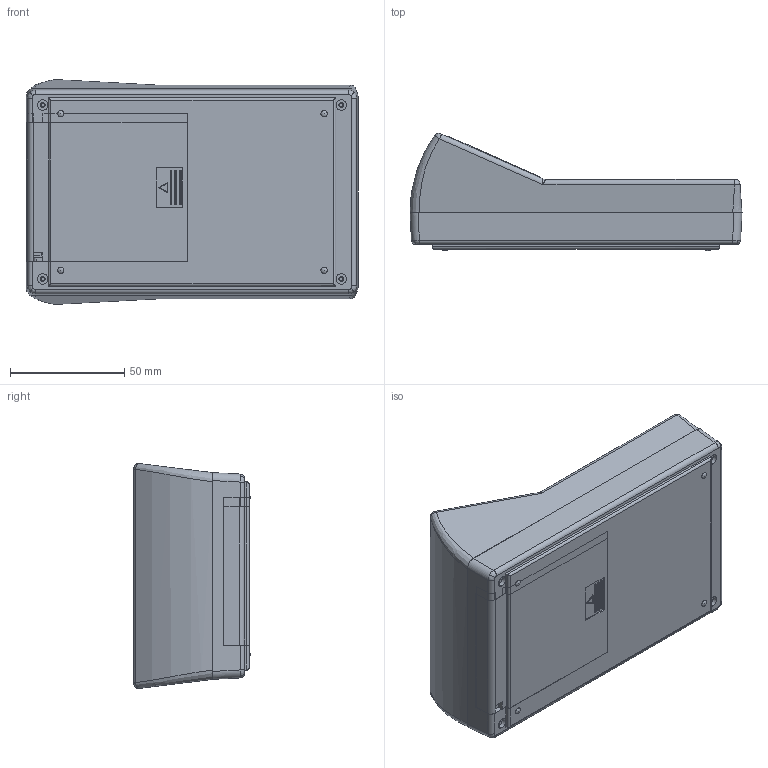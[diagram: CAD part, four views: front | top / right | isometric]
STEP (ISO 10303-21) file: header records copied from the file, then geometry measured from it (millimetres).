
FILE_DESCRIPTION (( 'STEP AP214' ), '1' );
FILE_NAME ('90-52-29V-R.STEP', '2020-10-15T16:26:56', ( 'Rudy' ), ( '' ), 'SwSTEP 2.0', 'SolidWorks 2014', '' );
FILE_SCHEMA (( 'AUTOMOTIVE_DESIGN' ));
Length unit declared in the file: millimetre
Products named in the file (6): 90 PCB 29V-4AA; 29V door; 90-bessel; Top Angled LCD; 90-29V Shallow; 90-52-29V-R
Assembly tree (5 placements, depth 2):
  90-52-29V-R
    90-29V Shallow
    Top Angled LCD
    90-bessel
    29V door
    90 PCB 29V-4AA
Bounding box: 145.5 x 51.32 x 98.54 mm (x, y, z)
Volume: 136712 mm3; surface area: 120860 mm2
Topology: 5 solids, 5 shells, 610 faces, 1615 edges, 1037 vertices
Faces by surface type: plane 368, cylinder 144, cone 44, torus 24, bspline 20, sphere 10
Entity records: 19881 total; most frequent: CARTESIAN_POINT 4575, ORIENTED_EDGE 3190, DIRECTION 3056, EDGE_CURVE 1595, LINE 1128, VECTOR 1128, VERTEX_POINT 1029, AXIS2_PLACEMENT_3D 964
